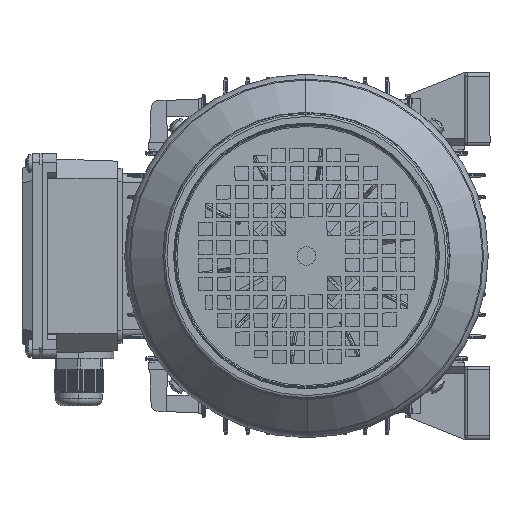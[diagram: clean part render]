
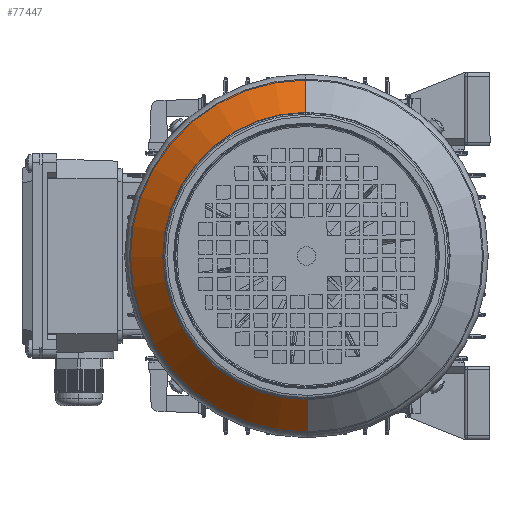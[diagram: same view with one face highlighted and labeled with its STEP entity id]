
A CAD part, left-side view. The second image highlights one B-rep face of the part: STEP entity #77447.
In plain terms, the highlighted conical face has half-angle 45 degrees and reference radius 78.293 mm.
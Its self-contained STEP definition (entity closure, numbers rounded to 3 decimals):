
#6923 = CARTESIAN_POINT ( 'NONE',  ( 159.707, 0., -78.293 ) ) ;
#12435 = DIRECTION ( 'NONE',  ( -1., 0., 0. ) ) ;
#16504 = AXIS2_PLACEMENT_3D ( 'NONE', #28333, #12435, #151788 ) ;
#20662 = VECTOR ( 'NONE', #119207, 1000. ) ;
#28333 = CARTESIAN_POINT ( 'NONE',  ( 141.527, 0., 0. ) ) ;
#37786 = ORIENTED_EDGE ( 'NONE', *, *, #94637, .F. ) ;
#38689 = AXIS2_PLACEMENT_3D ( 'NONE', #126008, #94186, #78307 ) ;
#40103 = EDGE_CURVE ( 'NONE', #86914, #71682, #107065, .T. ) ;
#43377 = CIRCLE ( 'NONE', #16504, 96.473 ) ;
#46667 = FACE_OUTER_BOUND ( 'NONE', #133212, .T. ) ;
#61921 = DIRECTION ( 'NONE',  ( 0., 0., 1. ) ) ;
#62575 = ORIENTED_EDGE ( 'NONE', *, *, #40103, .T. ) ;
#64556 = ORIENTED_EDGE ( 'NONE', *, *, #130834, .T. ) ;
#71682 = VERTEX_POINT ( 'NONE', #6923 ) ;
#77447 = ADVANCED_FACE ( 'NONE', ( #46667 ), #77819, .T. ) ;
#77819 = CONICAL_SURFACE ( 'NONE', #38689, 78.293, 0.785 ) ;
#77840 = DIRECTION ( 'NONE',  ( -1., 0., 0. ) ) ;
#78307 = DIRECTION ( 'NONE',  ( 0., 0., 1. ) ) ;
#80629 = VECTOR ( 'NONE', #108448, 1000. ) ;
#86914 = VERTEX_POINT ( 'NONE', #129081 ) ;
#94186 = DIRECTION ( 'NONE',  ( -1., 0., 0. ) ) ;
#94637 = EDGE_CURVE ( 'NONE', #153909, #111850, #43377, .T. ) ;
#107065 = CIRCLE ( 'NONE', #113817, 78.293 ) ;
#107367 = CARTESIAN_POINT ( 'NONE',  ( 141.527, 0., -96.473 ) ) ;
#108448 = DIRECTION ( 'NONE',  ( -0.707, 0., -0.707 ) ) ;
#109623 = CARTESIAN_POINT ( 'NONE',  ( 159.707, 0., 0. ) ) ;
#111850 = VERTEX_POINT ( 'NONE', #107367 ) ;
#113817 = AXIS2_PLACEMENT_3D ( 'NONE', #109623, #77840, #61921 ) ;
#119207 = DIRECTION ( 'NONE',  ( -0.707, 0., 0.707 ) ) ;
#124353 = CARTESIAN_POINT ( 'NONE',  ( 159.707, 0., -78.293 ) ) ;
#125815 = ORIENTED_EDGE ( 'NONE', *, *, #149347, .F. ) ;
#126008 = CARTESIAN_POINT ( 'NONE',  ( 159.707, 0., 0. ) ) ;
#129081 = CARTESIAN_POINT ( 'NONE',  ( 159.707, 0., 78.293 ) ) ;
#130762 = CARTESIAN_POINT ( 'NONE',  ( 141.527, 0., 96.473 ) ) ;
#130834 = EDGE_CURVE ( 'NONE', #71682, #111850, #140275, .T. ) ;
#133212 = EDGE_LOOP ( 'NONE', ( #62575, #64556, #37786, #125815 ) ) ;
#135114 = CARTESIAN_POINT ( 'NONE',  ( 159.707, 0., 78.293 ) ) ;
#140275 = LINE ( 'NONE', #124353, #80629 ) ;
#149347 = EDGE_CURVE ( 'NONE', #86914, #153909, #151040, .T. ) ;
#151040 = LINE ( 'NONE', #135114, #20662 ) ;
#151788 = DIRECTION ( 'NONE',  ( 0., 0., 1. ) ) ;
#153909 = VERTEX_POINT ( 'NONE', #130762 ) ;
